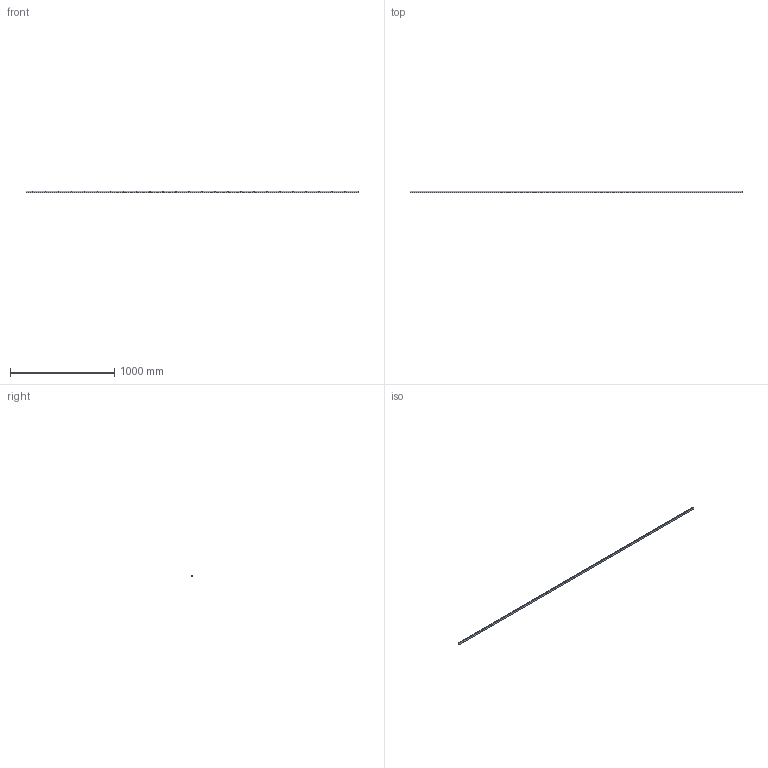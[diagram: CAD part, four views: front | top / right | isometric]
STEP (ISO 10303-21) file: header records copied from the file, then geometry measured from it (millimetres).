
FILE_DESCRIPTION(('golf model'),'2;1');
FILE_NAME('golf','',(''),(''),'golf_step_io','golf','');
FILE_SCHEMA(('AUTOMOTIVE_DESIGN { 1 0 10303 214 1 1 1 1 }'));
Length unit declared in the file: millimetre
Products named in the file (2): ASSEMBLY; bed.rack_land_bottom
Assembly tree (1 placements, depth 2):
  ASSEMBLY
    bed.rack_land_bottom
Bounding box: 3186 x 15.75 x 19 mm (x, y, z)
Volume: 698215.5 mm3; surface area: 196314.4 mm2
Topology: 1 solids, 1 shells, 56 faces, 87 edges, 58 vertices
Faces by surface type: plane 31, cylinder 25
Full cylindrical faces by diameter (mm): 5 x25
Entity records: 1190 total; most frequent: DIRECTION 228, CARTESIAN_POINT 178, ORIENTED_EDGE 124, AXIS2_PLACEMENT_3D 108, EDGE_LOOP 106, FACE_BOUND 105, EDGE_CURVE 62, VERTEX_POINT 58
